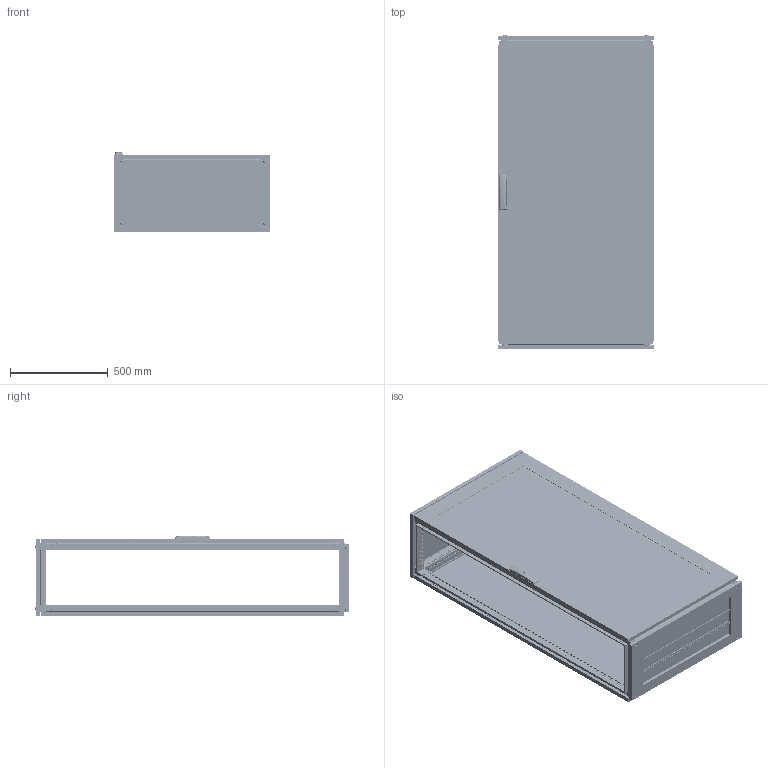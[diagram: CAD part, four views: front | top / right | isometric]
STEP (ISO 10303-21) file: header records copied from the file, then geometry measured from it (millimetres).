
FILE_DESCRIPTION (( 'STEP AP203' ), '1' );
FILE_NAME ('R5CQEN1684AX.STEP', '2025-05-07T11:43:22', ( '' ), ( '' ), 'SwSTEP 2.0', 'SolidWorks 2022', '' );
FILE_SCHEMA (( 'CONFIG_CONTROL_DESIGN' ));
Length unit declared in the file: millimetre
Products named in the file (65): R5CQEN1684AX; M6x10 DIN 7500 E HX cl.5.8 Zinc_straight; RB.0528.00.01.0 simple_-03; TPA.08.0139.00.03.0; М6х12 A5100231_straight; PF 7x14 CRE simple_1600x0800; TPA.08.0084.00.00.0 simple; RB.2456.00.00.0 simple; RB.2052.00.00.0 СБ simple_-12; RB.1633.00.01.0 simple_-03; PF 5x10 KTB simple_800x400; 4,0x16 F Torx Zinc (ART 88200)_thread; M12x16 ISO 7380-1 HX cl.4,8 Zinc_straight; RB.2969.00.00.0 СБ simple; RB.1728.00.00.0 simple_-02; R5NCPTE - Assem simple_R5NCPTE1680; PF 7,5x15 CPE simple_1600x0800; RB.0562.00.00.0 СБ simple_-10; RB.2755.00.00.0 СБ simple_-18; ATOS Traction guide ILY03.35; RB.0562.01.00.0 СБ simple_-10; R5NKMN - Assem simple_R5NKMN16 (800х400); 4.8x13 DIN 7981 PH Zinc_straight; RB.2702.00.00.0 simple; R5NCRE-Assem simple_R5NCRE1680; RB.0528.04.01.0 simple; RB.1633.00.02.0 simple_default; TPA.08.0083.00.00.0 simple; Square cap 20x20 simple; RB.1867.01.01.0 simple_-12; TPA.08.0139.00.01.0 simple; RB.0562.01.01.0 simple_-10; RB.0528.04.00.0 СБ simple; RB.2680.00.01.0 simple; RB.2499.01.00.0 СБ simple_-17; Pressing stud FH-M6-12_M6x12mm; RB.2172.00.00.1 simple; RB.2457.00.00.0 СБ simple_-18; RB.2686.00.00.0 simple; RB.1867.01.00.0 СБ simple_-27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
Assembly tree (173 placements, depth 5):
  R5CQEN1684AX
    R5NCPTE - Assem simple_R5NCPTE1680
      RB.0562.00.00.0 СБ simple_-10
        RB.0562.01.00.0 СБ simple_-10
          RB.0562.01.01.0 simple_-10
          М6х12 A5100231_straight  x7
          RB.2702.00.00.0 simple  x4
          PF 7,5x15 CPE simple_1600x0800
          Glass CPTE_1600x0800
          Glue CPTE simple_1600x0800
        Square cap 20x20 simple  x2
        M6x15 Erickson cl.4,8 Zinc  x2
        RB.0528.00.01.0 simple_-03  x2
        ATOS Traction guide ILY03.35  x4
        RB.2357.00.00.0 simple_-05
        RB.2680.00.00.0 СБ simple
          TPA.08.0139.00.01.0 simple
          RB.2680.00.01.0 simple
          RB.2680.00.02.0 simple  x2
        TPA.08.0139.00.03.0  x2
        M6 DIN 985 cl.6,0 Zinc_straight  x4
        4,0x16 F Torx Zinc (ART 88200)_thread  x2
        RB.0528.04.00.0 СБ simple  x2
          RB.0528.04.01.0 simple
          Pressing stud FH-M6-12_M6x12mm
      M6x10 DIN 912 HX cl.8,8 Zinc_straight  x8
      4.8x13 DIN 7981 PH Zinc_straight
      7 DIN 6799 Zinc simple  x4
      RB.2968.00.00.0 simple  x4
      RB.2969.00.00.0 СБ simple  x4
        RB.2969.00.01.0 simple
        Pin 4x16 DIN 7 AISI 303 (A1) simple
        M6 MGR-MKO-0625 simple_Thread
      AC00C446-R
      RB.2696.00.00.0 simple  x4
      7 DIN 6799 Zinc  x4
    R5NCRE-Assem simple_R5NCRE1680
      RB.2052.00.00.0 СБ simple_-12
        RB.2052.01.00.0 СБ simple_-12
          RB.0054.01.01.0 simple_-12
          М6х12 A5100231_straight  x4
        PF 7x14 CRE simple_1600x0800
      RB.2172.00.00.1 simple  x8
      M6x10 DIN 7500 E HX cl.5.8 Zinc_straight  x8
      M6x10 DIN 7500 M Torx cl.5.8 Zinc_straight  x8
    R5NKMN - Assem simple_R5NKMN16 (800х400)
      RB.2528.00.00.0 simple_-03  x4
    R5NKTB - Assem simple_H=1600 R5NKTB84
      RB.2499.00.00.0 СБ simple_-18
        RB.2499.01.00.0 СБ simple_-17
          RB.1633.00.01.0 simple_-03  x2
          RB.1633.00.02.0 simple_default  x2
          PF 5x10 KTB simple_800x400
        RB.2457.00.00.0 СБ simple_-18
          RB.2455.00.00.0 simple_-03  x2
          RB.2456.00.00.0 simple  x2
          TPA.08.0084.00.00.0 simple  x2
          TPA.08.0083.00.00.0 simple  x2
          M8x12 AC00C476 cl.8,8 Zinc_stright  x4
        RB.1728.00.00.0 simple_-02  x3
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Bounding box: 800 x 1613.3 x 414.74 mm (x, y, z)
Volume: 14666826.3 mm3; surface area: 12440990.5 mm2
Topology: 176 solids, 192 shells, 20273 faces, 57243 edges, 37643 vertices
Faces by surface type: plane 11419, cylinder 7313, cone 704, bspline 435, torus 368, sphere 34
Entity records: 205297 total; most frequent: CARTESIAN_POINT 52067, ORIENTED_EDGE 30242, DIRECTION 28715, EDGE_CURVE 15147, VERTEX_POINT 10018, AXIS2_PLACEMENT_3D 9641, LINE 9433, VECTOR 9433
